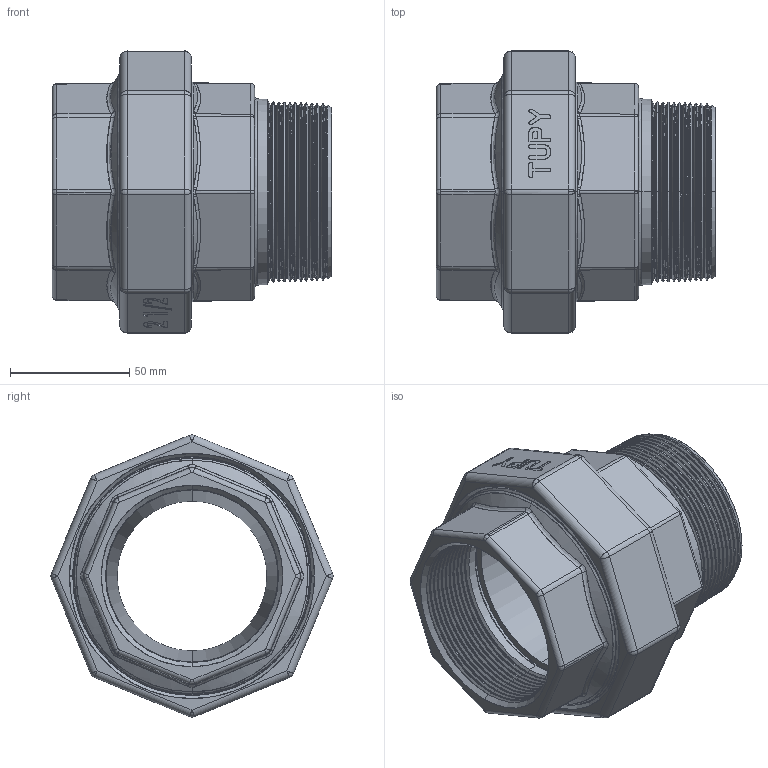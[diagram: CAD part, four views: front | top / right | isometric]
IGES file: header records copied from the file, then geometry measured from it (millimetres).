
Start section: SolidWorks IGES file using analytic representation for surfaces
Global section: file name: C:\Users\Joel Rosa\Desktop\Tubulação\12-65-X\12-65-011.IGS; native system: SolidWorks 2011; preprocessor: SolidWorks 2011; author: Joel Rosa; date: 130721.181219; units: millimetre
Bounding box: 117.5 x 118.56 x 118.57 mm (x, y, z)
Surface area: 113221.9 mm2 (no closed solid volume)
Topology: 0 solids, 0 shells, 690 faces, 5611 edges, 5605 vertices
Faces by surface type: bspline 422, revolution 268
